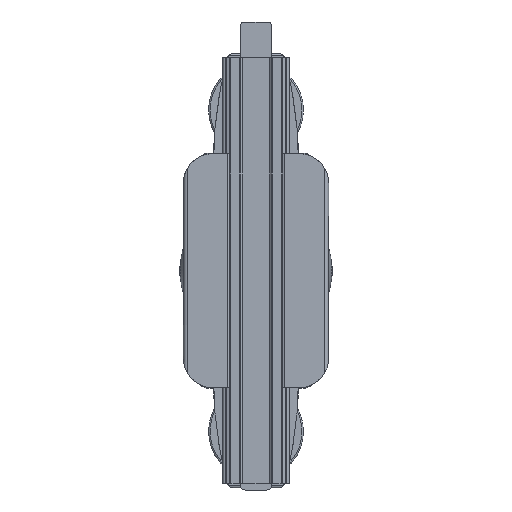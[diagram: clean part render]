
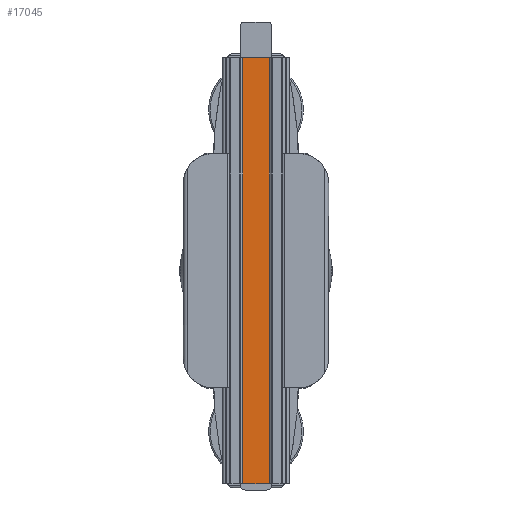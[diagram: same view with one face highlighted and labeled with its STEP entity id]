
A CAD part, front view. The second image highlights one B-rep face of the part: STEP entity #17045.
In plain terms, the highlighted planar face has unit normal (0, -1, 0).
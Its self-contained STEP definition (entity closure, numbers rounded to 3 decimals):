
#574=PLANE('',#18809);
#1383=LINE('',#33022,#2430);
#1384=LINE('',#33026,#2431);
#1385=LINE('',#33027,#2432);
#1386=LINE('',#33028,#2433);
#2430=VECTOR('',#22908,10.);
#2431=VECTOR('',#22911,10.);
#2432=VECTOR('',#22912,10.);
#2433=VECTOR('',#22913,10.);
#4034=FACE_OUTER_BOUND('',#5079,.T.);
#5079=EDGE_LOOP('',(#14390,#14391,#14392,#14393));
#8108=VERTEX_POINT('',#33018);
#8109=VERTEX_POINT('',#33020);
#8110=VERTEX_POINT('',#33024);
#8111=VERTEX_POINT('',#33025);
#10343=EDGE_CURVE('',#8108,#8109,#1383,.T.);
#10344=EDGE_CURVE('',#8110,#8111,#1384,.T.);
#10345=EDGE_CURVE('',#8111,#8108,#1385,.T.);
#10346=EDGE_CURVE('',#8109,#8110,#1386,.T.);
#14390=ORIENTED_EDGE('',*,*,#10344,.T.);
#14391=ORIENTED_EDGE('',*,*,#10345,.T.);
#14392=ORIENTED_EDGE('',*,*,#10343,.T.);
#14393=ORIENTED_EDGE('',*,*,#10346,.T.);
#17045=ADVANCED_FACE('',(#4034),#574,.T.);
#18809=AXIS2_PLACEMENT_3D('',#33023,#22909,#22910);
#22908=DIRECTION('',(0.,0.,-1.));
#22909=DIRECTION('center_axis',(0.,-1.,0.));
#22910=DIRECTION('ref_axis',(-1.,0.,0.));
#22911=DIRECTION('',(0.,0.,1.));
#22912=DIRECTION('',(-1.,0.,0.));
#22913=DIRECTION('',(1.,0.,0.));
#33018=CARTESIAN_POINT('',(-6.151,1.,100.));
#33020=CARTESIAN_POINT('',(-6.151,1.,-100.));
#33022=CARTESIAN_POINT('',(-6.151,1.,0.));
#33023=CARTESIAN_POINT('Origin',(6.151,1.,0.));
#33024=CARTESIAN_POINT('',(6.151,1.,-100.));
#33025=CARTESIAN_POINT('',(6.151,1.,100.));
#33026=CARTESIAN_POINT('',(6.151,1.,0.));
#33027=CARTESIAN_POINT('',(3.075,1.,100.));
#33028=CARTESIAN_POINT('',(3.075,1.,-100.));
